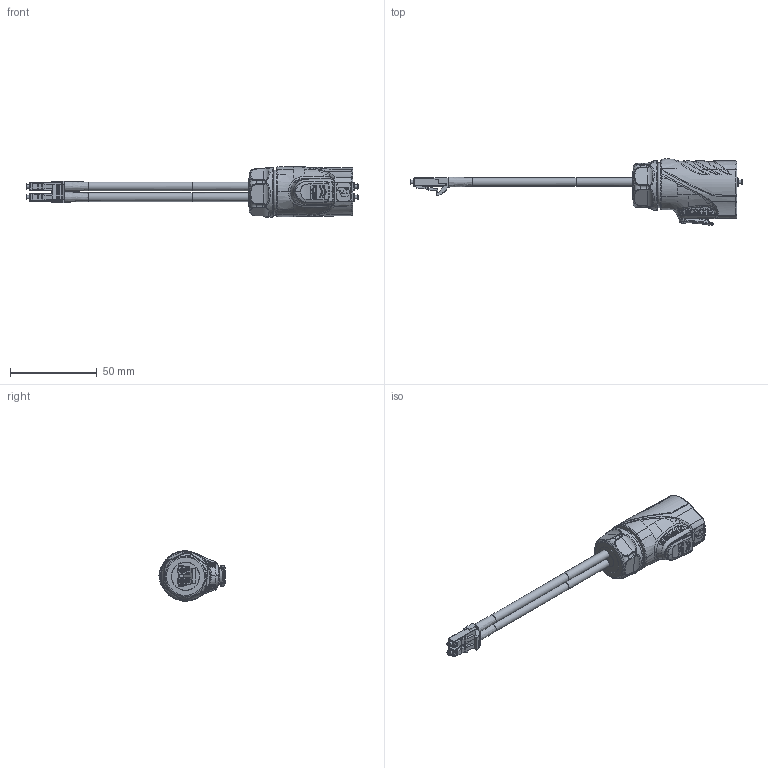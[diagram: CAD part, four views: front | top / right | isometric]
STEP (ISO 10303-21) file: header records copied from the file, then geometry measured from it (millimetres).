
FILE_DESCRIPTION (( 'STEP AP203' ), '1' );
FILE_NAME ('PLG20 单模双纤插头线束(铠装).STEP', '2025-03-21T00:47:10', ( '' ), ( '' ), 'SwSTEP 2.0', 'SolidWorks 2024', '' );
FILE_SCHEMA (( 'CONFIG_CONTROL_DESIGN' ));
Products named in the file (1): PLG20 单模双纤插头线束(铠装)
Bounding box: 191.2 x 38.21 x 28.97 mm (x, y, z)
Surface area: 27412.4 mm2 (no closed solid volume)
Topology: 0 solids, 24 shells, 1901 faces, 5483 edges, 3587 vertices
Faces by surface type: bspline 726, plane 702, cylinder 321, torus 91, sphere 34, cone 27
Full cylindrical faces by diameter (mm): 1.2 x4, 1.3 x8, 1.6 x1, 2 x4, 2.65 x1, 3 x12, 5 x4, 17.6 x1, 19.4 x2, 21.989 x1, 28.6 x1
Entity records: 115288 total; most frequent: CARTESIAN_POINT 72546, ORIENTED_EDGE 10098, DIRECTION 6483, EDGE_CURVE 5349, VERTEX_POINT 3557, LINE 2361, VECTOR 2361, AXIS2_PLACEMENT_3D 2061
